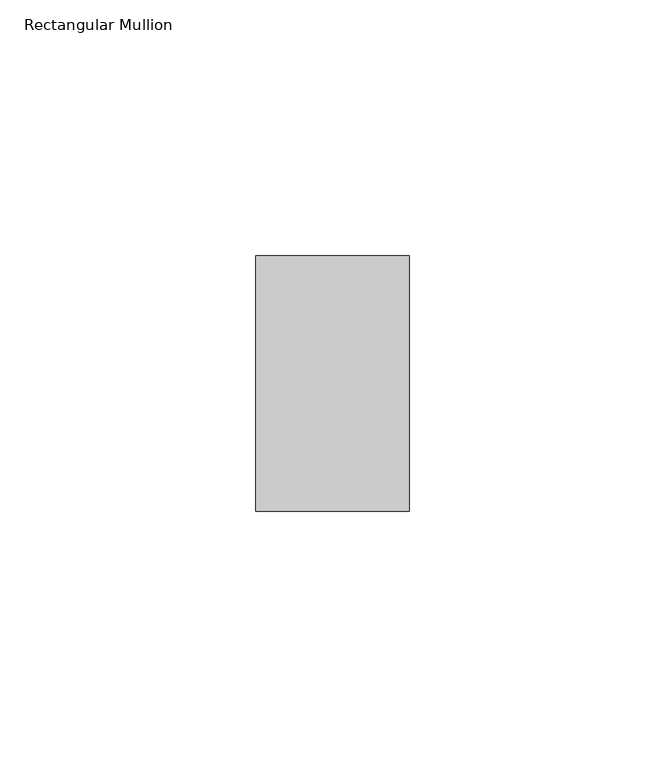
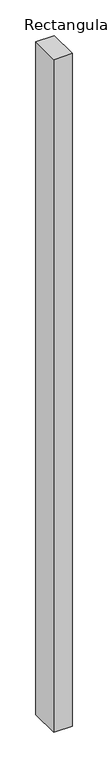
"""IFC4 building model written with IfcOpenShell, lengths in millimetres: member geometry, Rectangular Mullion : ARQ_TV_MULL_50x30mm."""

from ifc_helpers import new_model, si_unit, frame, origin, place, context, project, spatial, polyline, outline, extrude, source, transform, mapped, element, save


def rectangular_mullion_8bfd3a9c(model_context):
    return source(origin(), model_context, "Body", "SweptSolid", [
        extrude(outline(polyline([(15.0, 25.0), (15.0, -25.0), (-15.0, -25.0), (-15.0, 25.0), (15.0, 25.0)])), frame((0.0, 0.0, -1151.2405904), z_axis=(0.0, 0.0, 1.0), x_axis=(1.0, 0.0, 0.0)), (0.0, 0.0, 1.0), 1151.2405904),
    ])


if __name__ == "__main__":
    model = new_model("IFC4")
    model_context = context("Model", 3, world=origin())
    ifc_project = project(units=[si_unit("LENGTHUNIT", "METRE", prefix="MILLI")], contexts=[model_context])
    site = spatial("IfcSite", under=ifc_project)
    building = spatial("IfcBuilding", under=site)
    placement = place(None, origin())
    rectangular_mullion_shape = rectangular_mullion_8bfd3a9c(model_context)
    element("IfcMember", 1, ObjectType="Rectangular Mullion : ARQ_TV_MULL_50x30mm", at=placement, inside=building, context=model_context, shape_type="MappedRepresentation", body=[
        mapped(rectangular_mullion_shape, transform((0.0, 0.0, 0.0), x_axis=(1.0, 0.0, 0.0), y_axis=(0.0, 1.0, 0.0), z_axis=(0.0, 0.0, 1.0))),
    ])
    save(model, "model.ifc")
